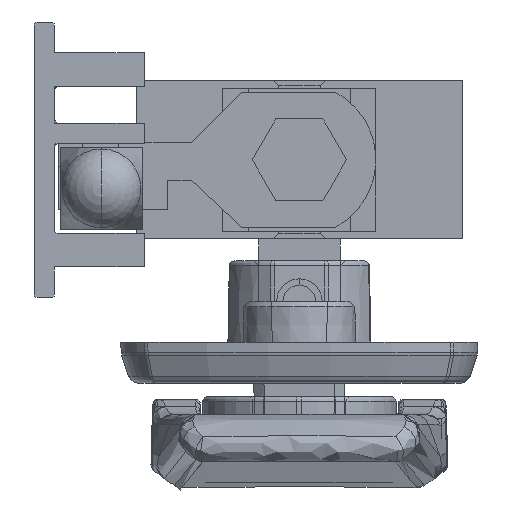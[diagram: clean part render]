
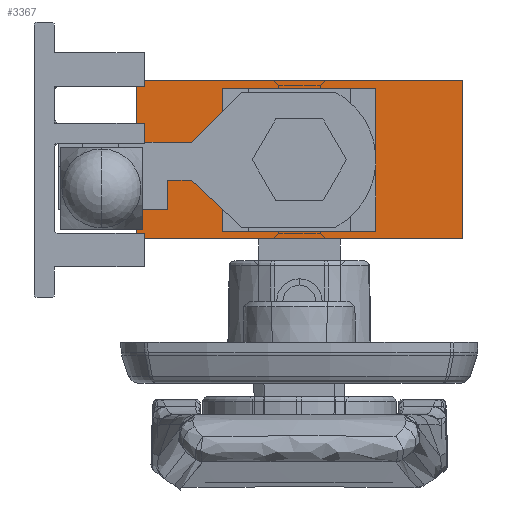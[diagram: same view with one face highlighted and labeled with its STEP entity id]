
A CAD part, front view. The second image highlights one B-rep face of the part: STEP entity #3367.
In plain terms, the highlighted planar face has unit normal (0, -1, 0).
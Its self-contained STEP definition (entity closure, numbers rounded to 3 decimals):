
#430 = ORIENTED_EDGE ( 'NONE', *, *, #7304, .F. ) ;
#1422 = EDGE_CURVE ( 'NONE', #20831, #31051, #6352, .T. ) ;
#1571 = LINE ( 'NONE', #15863, #11445 ) ;
#1656 = EDGE_CURVE ( 'NONE', #35754, #35497, #23506, .T. ) ;
#2403 = ORIENTED_EDGE ( 'NONE', *, *, #14589, .F. ) ;
#3367 = ADVANCED_FACE ( 'NONE', ( #3751, #12512 ), #3558, .F. ) ;
#3444 = VECTOR ( 'NONE', #32190, 1000. ) ;
#3558 = PLANE ( 'NONE',  #35172 ) ;
#3751 = FACE_BOUND ( 'NONE', #9968, .T. ) ;
#4553 = ORIENTED_EDGE ( 'NONE', *, *, #1422, .T. ) ;
#4967 = VECTOR ( 'NONE', #11215, 1000. ) ;
#6352 = LINE ( 'NONE', #29656, #30858 ) ;
#6806 = CARTESIAN_POINT ( 'NONE',  ( -7., -72.75, -6.25 ) ) ;
#7304 = EDGE_CURVE ( 'NONE', #37162, #35754, #23657, .T. ) ;
#8420 = EDGE_CURVE ( 'NONE', #31051, #21417, #34606, .T. ) ;
#8756 = CARTESIAN_POINT ( 'NONE',  ( -7., -72.75, -6.25 ) ) ;
#8891 = EDGE_CURVE ( 'NONE', #35497, #17540, #10711, .T. ) ;
#9612 = LINE ( 'NONE', #20512, #3444 ) ;
#9752 = ORIENTED_EDGE ( 'NONE', *, *, #8891, .F. ) ;
#9968 = EDGE_LOOP ( 'NONE', ( #9752, #30784, #430, #18066 ) ) ;
#10711 = LINE ( 'NONE', #8756, #25513 ) ;
#11215 = DIRECTION ( 'NONE',  ( 0., 0., 1. ) ) ;
#11445 = VECTOR ( 'NONE', #27537, 1000. ) ;
#11509 = CARTESIAN_POINT ( 'NONE',  ( 16., -72.75, 7.75 ) ) ;
#11849 = CARTESIAN_POINT ( 'NONE',  ( 16., -72.75, -7.75 ) ) ;
#12512 = FACE_OUTER_BOUND ( 'NONE', #24832, .T. ) ;
#13944 = CARTESIAN_POINT ( 'NONE',  ( -16., -72.75, -7.75 ) ) ;
#14589 = EDGE_CURVE ( 'NONE', #20831, #31525, #9612, .T. ) ;
#14987 = ORIENTED_EDGE ( 'NONE', *, *, #34173, .F. ) ;
#15109 = DIRECTION ( 'NONE',  ( 0., 0., -1. ) ) ;
#15549 = LINE ( 'NONE', #6806, #19536 ) ;
#15742 = DIRECTION ( 'NONE',  ( 1., 0., 0. ) ) ;
#15863 = CARTESIAN_POINT ( 'NONE',  ( 16., -72.75, 7.75 ) ) ;
#16385 = CARTESIAN_POINT ( 'NONE',  ( -16., -72.75, -7.75 ) ) ;
#16610 = DIRECTION ( 'NONE',  ( 1., 0., 0. ) ) ;
#17003 = CARTESIAN_POINT ( 'NONE',  ( -7., -72.75, 6.25 ) ) ;
#17163 = DIRECTION ( 'NONE',  ( -1., 0., 0. ) ) ;
#17540 = VERTEX_POINT ( 'NONE', #23480 ) ;
#18066 = ORIENTED_EDGE ( 'NONE', *, *, #21956, .F. ) ;
#19536 = VECTOR ( 'NONE', #15742, 1000. ) ;
#20315 = CARTESIAN_POINT ( 'NONE',  ( 7., -72.75, -6.25 ) ) ;
#20512 = CARTESIAN_POINT ( 'NONE',  ( -16., -72.75, 7.75 ) ) ;
#20831 = VERTEX_POINT ( 'NONE', #37239 ) ;
#20947 = CARTESIAN_POINT ( 'NONE',  ( -16., -72.75, 7.75 ) ) ;
#21417 = VERTEX_POINT ( 'NONE', #11849 ) ;
#21717 = VECTOR ( 'NONE', #17163, 1000. ) ;
#21956 = EDGE_CURVE ( 'NONE', #17540, #37162, #15549, .T. ) ;
#23285 = DIRECTION ( 'NONE',  ( 0., 0., -1. ) ) ;
#23480 = CARTESIAN_POINT ( 'NONE',  ( -7., -72.75, -6.25 ) ) ;
#23506 = LINE ( 'NONE', #35169, #21717 ) ;
#23657 = LINE ( 'NONE', #35317, #4967 ) ;
#24832 = EDGE_LOOP ( 'NONE', ( #36437, #14987, #2403, #4553 ) ) ;
#25513 = VECTOR ( 'NONE', #23285, 1000. ) ;
#27505 = CARTESIAN_POINT ( 'NONE',  ( 7., -72.75, 6.25 ) ) ;
#27537 = DIRECTION ( 'NONE',  ( 0., 0., -1. ) ) ;
#29656 = CARTESIAN_POINT ( 'NONE',  ( -16., -72.75, 7.75 ) ) ;
#30287 = DIRECTION ( 'NONE',  ( 0., 0., 1. ) ) ;
#30784 = ORIENTED_EDGE ( 'NONE', *, *, #1656, .F. ) ;
#30858 = VECTOR ( 'NONE', #15109, 1000. ) ;
#31051 = VERTEX_POINT ( 'NONE', #16385 ) ;
#31525 = VERTEX_POINT ( 'NONE', #11509 ) ;
#32190 = DIRECTION ( 'NONE',  ( 1., 0., 0. ) ) ;
#32619 = DIRECTION ( 'NONE',  ( 0., 1., 0. ) ) ;
#32885 = VECTOR ( 'NONE', #16610, 1000. ) ;
#34173 = EDGE_CURVE ( 'NONE', #31525, #21417, #1571, .T. ) ;
#34606 = LINE ( 'NONE', #13944, #32885 ) ;
#35169 = CARTESIAN_POINT ( 'NONE',  ( 7., -72.75, 6.25 ) ) ;
#35172 = AXIS2_PLACEMENT_3D ( 'NONE', #20947, #32619, #30287 ) ;
#35317 = CARTESIAN_POINT ( 'NONE',  ( 7., -72.75, 6.25 ) ) ;
#35497 = VERTEX_POINT ( 'NONE', #17003 ) ;
#35754 = VERTEX_POINT ( 'NONE', #27505 ) ;
#36437 = ORIENTED_EDGE ( 'NONE', *, *, #8420, .T. ) ;
#37162 = VERTEX_POINT ( 'NONE', #20315 ) ;
#37239 = CARTESIAN_POINT ( 'NONE',  ( -16., -72.75, 7.75 ) ) ;
